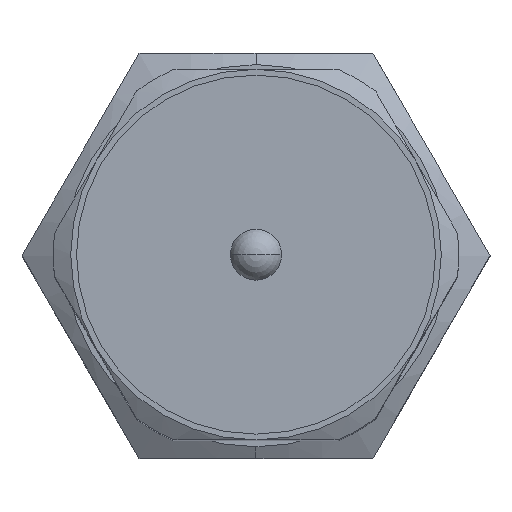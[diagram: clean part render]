
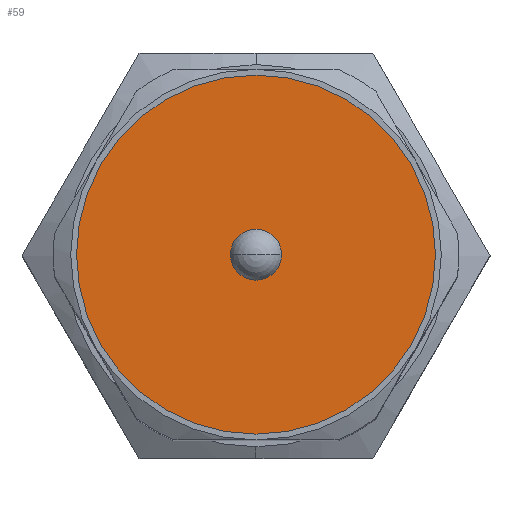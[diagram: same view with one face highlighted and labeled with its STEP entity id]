
A CAD part, top view. The second image highlights one B-rep face of the part: STEP entity #59.
In plain terms, the highlighted planar face has unit normal (0, 0, 1).
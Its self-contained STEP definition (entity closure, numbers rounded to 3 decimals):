
#59=ADVANCED_FACE('',(#282,#283),#281,.F.);
#281=PLANE('',#710);
#282=FACE_OUTER_BOUND('',#711,.T.);
#283=FACE_BOUND('',#712,.T.);
#707=CARTESIAN_POINT('',(35.65,-32.216,98.5));
#708=DIRECTION('',(0.,0.,-1.));
#709=DIRECTION('',(-1.,0.,0.));
#710=AXIS2_PLACEMENT_3D('',#707,#708,#709);
#711=EDGE_LOOP('',(#1016,#1017));
#712=EDGE_LOOP('',(#1018,#1019));
#1016=ORIENTED_EDGE('',*,*,#1220,.F.);
#1017=ORIENTED_EDGE('',*,*,#1221,.F.);
#1018=ORIENTED_EDGE('',*,*,#1222,.F.);
#1019=ORIENTED_EDGE('',*,*,#1223,.F.);
#1220=EDGE_CURVE('',#1692,#1693,#1694,.T.);
#1221=EDGE_CURVE('',#1693,#1692,#1700,.T.);
#1222=EDGE_CURVE('',#1706,#1707,#1708,.T.);
#1223=EDGE_CURVE('',#1707,#1706,#1714,.T.);
#1692=VERTEX_POINT('',#2417);
#1693=VERTEX_POINT('',#2418);
#1694=CIRCLE('',#2422,15.5);
#1700=CIRCLE('',#2426,15.5);
#1706=VERTEX_POINT('',#2427);
#1707=VERTEX_POINT('',#2428);
#1708=CIRCLE('',#2432,2.2);
#1714=CIRCLE('',#2436,2.2);
#2417=CARTESIAN_POINT('',(15.5,0.,98.5));
#2418=CARTESIAN_POINT('',(-15.5,0.,98.5));
#2419=CARTESIAN_POINT('',(0.,0.,98.5));
#2420=DIRECTION('',(0.,0.,-1.));
#2421=DIRECTION('',(-1.,0.,0.));
#2422=AXIS2_PLACEMENT_3D('',#2419,#2420,#2421);
#2423=CARTESIAN_POINT('',(0.,0.,98.5));
#2424=DIRECTION('',(0.,0.,-1.));
#2425=DIRECTION('',(-1.,0.,0.));
#2426=AXIS2_PLACEMENT_3D('',#2423,#2424,#2425);
#2427=CARTESIAN_POINT('',(2.2,0.,98.5));
#2428=CARTESIAN_POINT('',(-2.2,0.,98.5));
#2429=CARTESIAN_POINT('',(0.,0.,98.5));
#2430=DIRECTION('',(0.,0.,1.));
#2431=DIRECTION('',(-1.,0.,0.));
#2432=AXIS2_PLACEMENT_3D('',#2429,#2430,#2431);
#2433=CARTESIAN_POINT('',(0.,0.,98.5));
#2434=DIRECTION('',(0.,0.,1.));
#2435=DIRECTION('',(-1.,0.,0.));
#2436=AXIS2_PLACEMENT_3D('',#2433,#2434,#2435);
